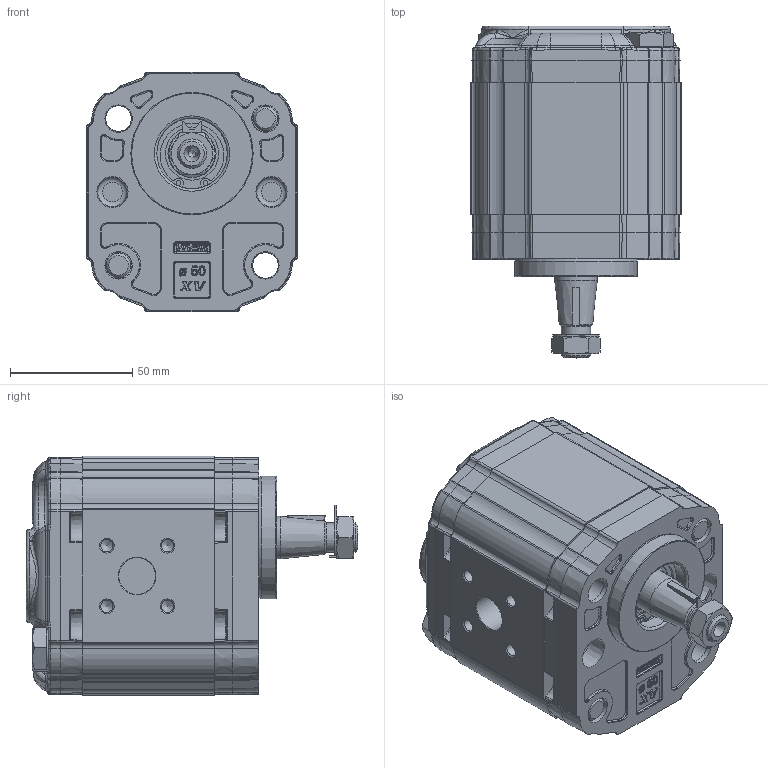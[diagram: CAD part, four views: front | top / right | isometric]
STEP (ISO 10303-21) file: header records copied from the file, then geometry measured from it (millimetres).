
FILE_DESCRIPTION(/* description */ ('Unknown'),/* implementation_level */ '2;1');
FILE_NAME(/* name */ 'X2R4513FRRF',/* time_stamp */ '2026-06-03T18:22:20+02:00',/* author */ ('Unknown'),/* organization */ ('Unknown'),/* preprocessor_version */ 'ST-DEVELOPER v16.7',/* originating_system */ 'Solid Edge',/* authorisation */ 'Unknown');
FILE_SCHEMA (('AUTOMOTIVE_DESIGN {1 0 10303 214 3 1 1}'));
Products named in the file (5): X2R4513FRRF; X2R13; 2F; X2RRH54; XR213-F
Assembly tree (4 placements, depth 2):
  X2R4513FRRF
    X2R13
    2F
    X2RRH54
    XR213-F
Bounding box: 86 x 135.65 x 98 mm (x, y, z)
Volume: 665749.1 mm3; surface area: 102191.2 mm2
Topology: 4 solids, 8 shells, 2512 faces, 6129 edges, 3698 vertices
Faces by surface type: cylinder 717, bspline 627, plane 620, cone 287, torus 201, sphere 60
Full cylindrical faces by diameter (mm): 2 x2, 5 x8, 10 x6, 10.5 x8, 11 x2, 12 x2, 12.5 x1, 15 x2, 16 x2, 17.42 x1, 17.48 x2, 18.724 x1, 20.595 x1, 21.741 x1, 25 x1, 25.834 x1, 28.56 x1, 28.57 x1, 28.8 x1, 30.5 x1, 50 x1
Entity records: 116462 total; most frequent: CARTESIAN_POINT 45571, ORIENTED_EDGE 11766, DIRECTION 9661, EDGE_CURVE 5883, AXIS2_PLACEMENT_3D 3813, VERTEX_POINT 3640, FACE_BOUND 2789, EDGE_LOOP 2779
